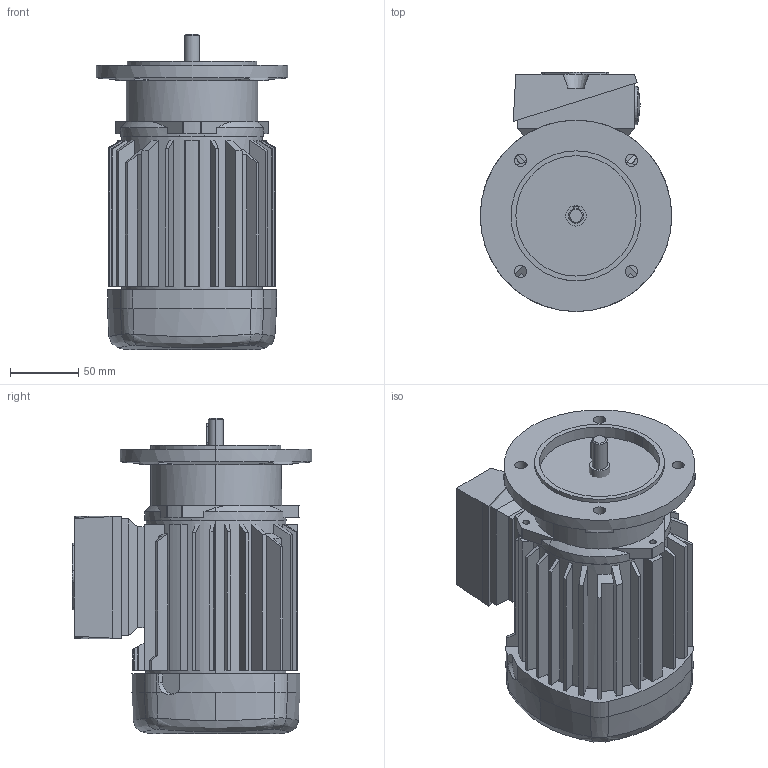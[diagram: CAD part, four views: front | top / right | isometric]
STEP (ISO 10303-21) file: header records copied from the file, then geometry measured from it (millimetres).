
FILE_DESCRIPTION (( 'STEP AP214' ), '1' );
FILE_NAME ('IE3-W41R63_B5FF115.STEP', '2023-08-21T10:04:06', ( '' ), ( '' ), 'SwSTEP 2.0', 'SolidWorks 2015', '' );
FILE_SCHEMA (( 'AUTOMOTIVE_DESIGN' ));
Length unit declared in the file: millimetre
Products named in the file (9): LF_FF_B5K_klein_LF07 FF115; KD05_Kat; RG 06_Kat; LHB_Kat_LHB06; KA05_komplett_Kat_KV_2xM20; KA05_Kat; IE3-W41R63_B5FF115; Verschlussschraube_M25; WE_RWE_Kat_11x23 (W21R63)
Assembly tree (9 placements, depth 3):
  IE3-W41R63_B5FF115
    RG 06_Kat
    KA05_komplett_Kat_KV_2xM20
      KA05_Kat
      KD05_Kat
      Verschlussschraube_M25  x2
    LHB_Kat_LHB06
    WE_RWE_Kat_11x23 (W21R63)
    LF_FF_B5K_klein_LF07 FF115
Bounding box: 140 x 175 x 231 mm (x, y, z)
Volume: 2464375.4 mm3; surface area: 256090.3 mm2
Topology: 8 solids, 8 shells, 388 faces, 988 edges, 648 vertices
Faces by surface type: plane 209, cylinder 119, cone 46, bspline 8, sphere 4, torus 2
Entity records: 14489 total; most frequent: CARTESIAN_POINT 3055, ORIENTED_EDGE 1898, DIRECTION 1875, EDGE_CURVE 949, AXIS2_PLACEMENT_3D 666, VERTEX_POINT 622, LINE 543, VECTOR 543
